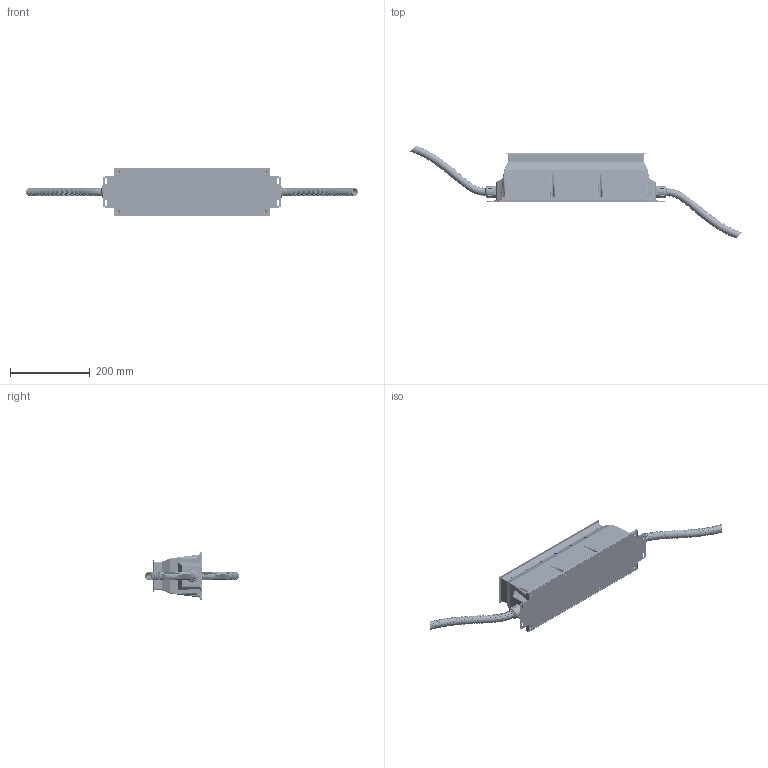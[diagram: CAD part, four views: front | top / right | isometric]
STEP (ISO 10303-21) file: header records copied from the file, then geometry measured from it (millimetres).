
FILE_DESCRIPTION((''),'2;1');
FILE_NAME('4QA-06_ASM','2020-11-02T',('Administrator'),(''),'CREO PARAMETRIC BY PTC INC, 2015200','CREO PARAMETRIC BY PTC INC, 2015200','');
FILE_SCHEMA(('CONFIG_CONTROL_DESIGN'));
Products named in the file (27): MIANGAI_178; CHUGUANGZHAO_173; 4P-1_ASM_168_ASM; HOUSING-DIE_187; SANREKUAI_162; PACKING-SILICON_125; DIAN_68; PG9_2; ZHIZI; MIANGAI-2; M4-6; WENKONGQI; M4-24; ____1_D1BL2014_21; 2FL-06_21; B27A_21; 4QA-TUOJINGZHIJA_ASM; JIEGUANGMAO; 4Q-A-2020-10-22; 4QA-BIBAN; _S__25______ANY; _S__29______ANY; _S__27______ANY; _S__26______ANY; PRODUCT_62766_ANY_ASM; ____-2020-10-14_ANY; 4QA-06_ASM
Assembly tree (56 placements, depth 3):
  4QA-06_ASM
    4P-1_ASM_168_ASM
      MIANGAI_178
      CHUGUANGZHAO_173
    HOUSING-DIE_187
    SANREKUAI_162
    PACKING-SILICON_125
    DIAN_68
    PG9_2
    ZHIZI  x12
    MIANGAI-2
    M4-6  x12
    WENKONGQI
    M4-24  x2
    ____1_D1BL2014_21
    4QA-TUOJINGZHIJA_ASM
      2FL-06_21
      B27A_21  x6
    JIEGUANGMAO
    4Q-A-2020-10-22
    4QA-BIBAN
    PRODUCT_62766_ANY_ASM  x2
      _S__25______ANY
      _S__29______ANY
      _S__27______ANY
      _S__26______ANY
    ____-2020-10-14_ANY  x2
Bounding box: 834.19 x 235.4 x 122 mm (x, y, z)
Volume: 867313.8 mm3; surface area: 817427.3 mm2
Topology: 56 solids, 56 shells, 5247 faces, 13997 edges, 9192 vertices
Faces by surface type: plane 2557, cylinder 1809, cone 341, torus 310, bspline 146, sphere 76, revolution 8
Entity records: 151895 total; most frequent: CARTESIAN_POINT 44660, ORIENTED_EDGE 23016, DIRECTION 21639, EDGE_CURVE 11508, AXIS2_PLACEMENT_3D 7888, VERTEX_POINT 7605, VECTOR 5855, LINE 5855
